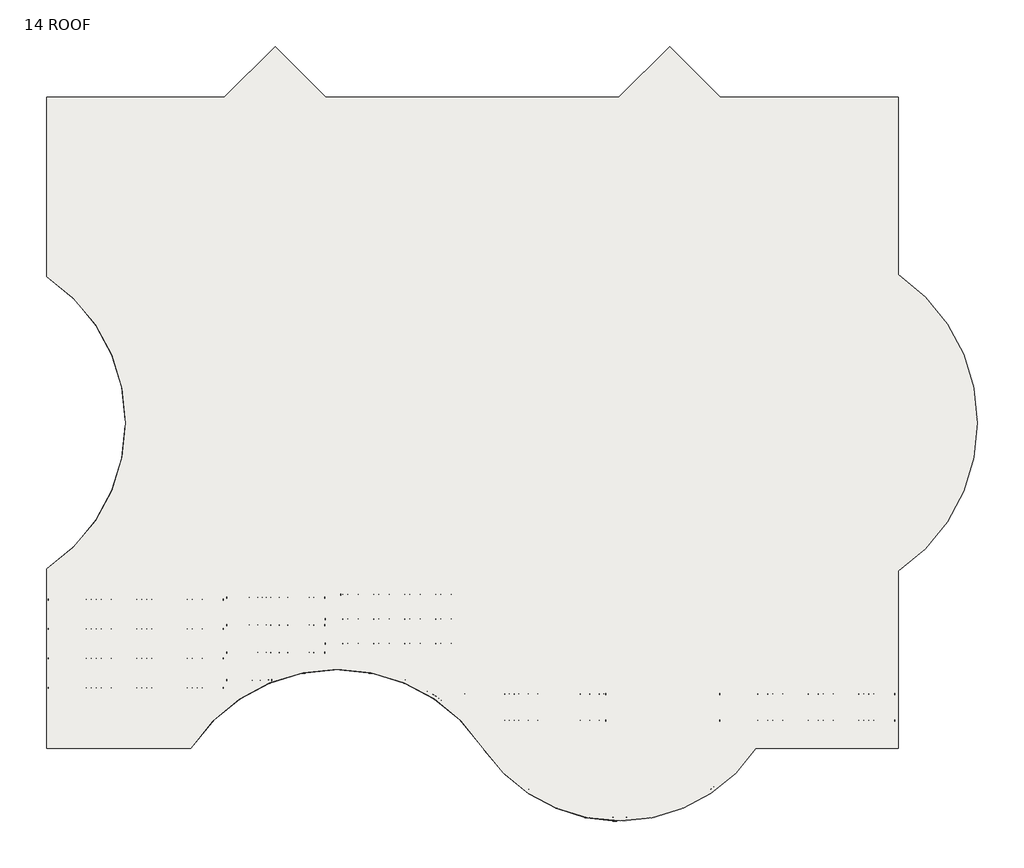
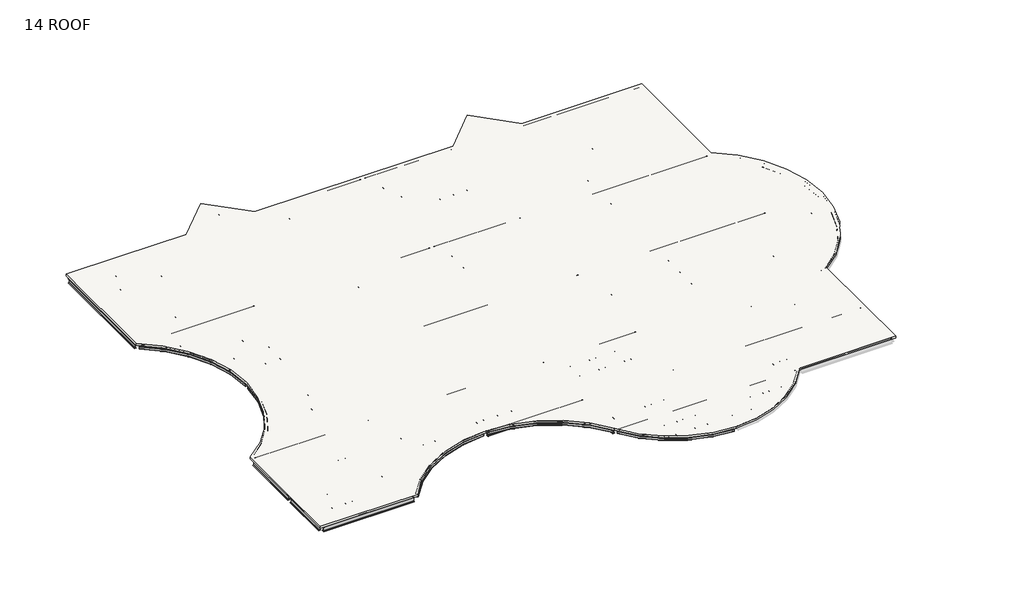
# One storey, part 1 of 2: 84 beams, 1 slab.
"""IFC4 building model written with IfcOpenShell, lengths in millimetres."""

from ifc_helpers import new_model, si_unit, frame, origin, place, context, project, spatial, polyline, circle_curve, transform, mapped, element, save
from ifc_brep_helpers import plane_surface, cylinder_surface, revolved_surface, advanced_brep
from components import k_series_bar_joist_angle_web_16k6_b8d877ef, k_series_bar_joist_angle_web_16k6_513a071d, k_series_bar_joist_angle_web_16k6_8cc64599, k_series_bar_joist_angle_web_16k6_8427851a, k_series_bar_joist_angle_web_16k6_15da1dfb, k_series_bar_joist_angle_web_16k6_93f726df, k_series_bar_joist_angle_web_16k6_7f331a79, k_series_bar_joist_angle_web_16k6_7619eb6f, k_series_bar_joist_angle_web_18k10_8fa36c72, k_series_bar_joist_angle_web_18k10_630fe876, k_series_bar_joist_angle_web_18k10_34fe76ac, k_series_bar_joist_angle_web_18k10_b23384f1, k_series_bar_joist_angle_web_18k10_bfc22dfb, k_series_bar_joist_angle_web_18k10_9bc89c3d, k_series_bar_joist_angle_web_18k10_634fa7f5, k_series_bar_joist_angle_web_18k10_34ad709c, m_hss_square_hss203_2x203_2x9_5_914ff4eb, m_hss_square_hss203_2x203_2x9_5_0e3d8e6e, m_hss_square_hss203_2x203_2x9_5_16dc1c03, m_hss_square_hss203_2x203_2x9_5_18346204, m_hss_square_hss203_2x203_2x9_5_d5f1e8c4, ub_universal_beams_ub254x102x28_1378b5d7, ub_universal_beams_ub356x171x51_ef72dcdd, ub_universal_beams_ub356x171x51_7f80702c, ub_universal_beams_ub356x171x51_dfc36663, ub_universal_beams_ub356x171x51_405a853e, ub_universal_beams_ub356x171x51_e47b7055, ub_universal_beams_ub356x171x51_e97f8d2e, ub_universal_beams_ub356x171x51_11d6b780, ub_universal_beams_ub356x171x51_76b2d20b, ub_universal_beams_ub356x171x51_145ecd4b, ub_universal_beams_ub356x171x51_c7dff8d2, ub_universal_beams_ub356x171x51_a38b99de, ub_universal_beams_ub356x171x51_d8f4cdde, ub_universal_beams_ub356x171x51_8094f821, ub_universal_beams_ub356x171x51_e661f2e4, ub_universal_beams_ub356x171x51_3ee91673, ub_universal_beams_ub356x171x51_a871b283, ub_universal_beams_ub356x171x51_6f605231, ub_universal_beams_ub356x171x51_0fe81250

model = new_model("IFC4")

# Units and contexts
model_context = context("Model", 3, world=origin())
ifc_project = project(units=[si_unit("LENGTHUNIT", "METRE", prefix="MILLI")], contexts=[model_context])

# Site, building, storey
site = spatial("IfcSite", under=ifc_project)
building = spatial("IfcBuilding", under=site)
storey = spatial("IfcBuildingStorey", under=building, Name="14 ROOF", Elevation=64922.6)

# Beams
placement = place(None, origin())
k_series_bar_joist_angle_web_16k6_shape = k_series_bar_joist_angle_web_16k6_b8d877ef(model_context)
element("IfcBeam", 1, ObjectType="K-Series Bar Joist-Angle Web : 16K6", at=placement, inside=storey, context=model_context, shape_type="MappedRepresentation", body=[
    mapped(k_series_bar_joist_angle_web_16k6_shape, transform((11885.575, 27472.075, 64719.6), x_axis=(1.0, 0.0, 0.0), y_axis=(0.0, 1.0, 0.0), z_axis=(0.0, 0.0, 1.0))),
])
element("IfcBeam", 2, ObjectType="K-Series Bar Joist-Angle Web : 16K6", at=placement, inside=storey, context=model_context, shape_type="MappedRepresentation", body=[
    mapped(k_series_bar_joist_angle_web_16k6_shape, transform((11885.575, 26005.825, 64719.6), x_axis=(1.0, 0.0, 0.0), y_axis=(0.0, 1.0, 0.0), z_axis=(0.0, 0.0, 1.0))),
])
element("IfcBeam", 3, ObjectType="K-Series Bar Joist-Angle Web : 16K6", at=placement, inside=storey, context=model_context, shape_type="MappedRepresentation", body=[
    mapped(k_series_bar_joist_angle_web_16k6_shape, transform((11885.575, 23015.575, 64719.6), x_axis=(1.0, 0.0, 0.0), y_axis=(0.0, 1.0, 0.0), z_axis=(0.0, 0.0, 1.0))),
])
element("IfcBeam", 4, ObjectType="K-Series Bar Joist-Angle Web : 16K6", at=placement, inside=storey, context=model_context, shape_type="MappedRepresentation", body=[
    mapped(k_series_bar_joist_angle_web_16k6_shape, transform((11885.575, 21491.575, 64719.6), x_axis=(1.0, 0.0, 0.0), y_axis=(0.0, 1.0, 0.0), z_axis=(0.0, 0.0, 1.0))),
])
element("IfcBeam", 5, ObjectType="K-Series Bar Joist-Angle Web : 16K6", at=placement, inside=storey, context=model_context, shape_type="MappedRepresentation", body=[
    mapped(k_series_bar_joist_angle_web_16k6_shape, transform((11885.575, 19967.575, 64719.6), x_axis=(1.0, 0.0, 0.0), y_axis=(0.0, 1.0, 0.0), z_axis=(0.0, 0.0, 1.0))),
])
element("IfcBeam", 6, ObjectType="K-Series Bar Joist-Angle Web : 16K6", at=placement, inside=storey, context=model_context, shape_type="MappedRepresentation", body=[
    mapped(k_series_bar_joist_angle_web_16k6_shape, transform((11885.575, 18443.575, 64719.6), x_axis=(1.0, 0.0, 0.0), y_axis=(0.0, 1.0, 0.0), z_axis=(0.0, 0.0, 1.0))),
])
element("IfcBeam", 7, ObjectType="K-Series Bar Joist-Angle Web : 16K6", at=placement, inside=storey, context=model_context, shape_type="MappedRepresentation", body=[
    mapped(k_series_bar_joist_angle_web_16k6_shape, transform((11885.575, 15395.575, 64719.6), x_axis=(1.0, 0.0, 0.0), y_axis=(0.0, 1.0, 0.0), z_axis=(0.0, 0.0, 1.0))),
])
element("IfcBeam", 8, ObjectType="K-Series Bar Joist-Angle Web : 16K6", at=placement, inside=storey, context=model_context, shape_type="MappedRepresentation", body=[
    mapped(k_series_bar_joist_angle_web_16k6_shape, transform((11885.575, 13871.575, 64719.6), x_axis=(1.0, 0.0, 0.0), y_axis=(0.0, 1.0, 0.0), z_axis=(0.0, 0.0, 1.0))),
])
element("IfcBeam", 9, ObjectType="K-Series Bar Joist-Angle Web : 16K6", at=placement, inside=storey, context=model_context, shape_type="MappedRepresentation", body=[
    mapped(k_series_bar_joist_angle_web_16k6_shape, transform((11885.575, 12347.575, 64719.6), x_axis=(1.0, 0.0, 0.0), y_axis=(0.0, 1.0, 0.0), z_axis=(0.0, 0.0, 1.0))),
])
element("IfcBeam", 10, ObjectType="K-Series Bar Joist-Angle Web : 16K6", at=placement, inside=storey, context=model_context, shape_type="MappedRepresentation", body=[
    mapped(k_series_bar_joist_angle_web_16k6_shape, transform((11885.575, 10823.575, 64719.6), x_axis=(1.0, 0.0, 0.0), y_axis=(0.0, 1.0, 0.0), z_axis=(0.0, 0.0, 1.0))),
])
k_series_bar_joist_angle_web_16k6_2_shape = k_series_bar_joist_angle_web_16k6_513a071d(model_context)
element("IfcBeam", 11, ObjectType="K-Series Bar Joist-Angle Web : 16K6", at=placement, inside=storey, context=model_context, shape_type="MappedRepresentation", body=[
    mapped(k_series_bar_joist_angle_web_16k6_2_shape, transform((29713.575, -2349.0918253, 64783.6), x_axis=(-1.0, 0.0, 0.0), y_axis=(0.0, -1.0, 0.0), z_axis=(0.0, 0.0, 1.0))),
])
k_series_bar_joist_angle_web_16k6_3_shape = k_series_bar_joist_angle_web_16k6_8cc64599(model_context)
element("IfcBeam", 12, ObjectType="K-Series Bar Joist-Angle Web : 16K6", at=placement, inside=storey, context=model_context, shape_type="MappedRepresentation", body=[
    mapped(k_series_bar_joist_angle_web_16k6_3_shape, transform((29713.575, -1096.7584126, 64783.6), x_axis=(-1.0, 0.0, 0.0), y_axis=(0.0, -1.0, 0.0), z_axis=(0.0, 0.0, 1.0))),
])
k_series_bar_joist_angle_web_16k6_4_shape = k_series_bar_joist_angle_web_16k6_8427851a(model_context)
element("IfcBeam", 13, ObjectType="K-Series Bar Joist-Angle Web : 16K6", at=placement, inside=storey, context=model_context, shape_type="MappedRepresentation", body=[
    mapped(k_series_bar_joist_angle_web_16k6_4_shape, transform((26211.9221013, 1518.575, 64740.9359146), x_axis=(-0.9999814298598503, 0.0, -0.006094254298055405), y_axis=(0.0, -1.0, 0.0), z_axis=(-0.006094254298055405, 0.0, 0.9999814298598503))),
])
element("IfcBeam", 14, ObjectType="K-Series Bar Joist-Angle Web : 16K6", at=placement, inside=storey, context=model_context, shape_type="MappedRepresentation", body=[
    mapped(k_series_bar_joist_angle_web_16k6_4_shape, transform((26211.4985566, 2881.575, 64730.267312), x_axis=(-0.9999953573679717, 0.0, -0.0030471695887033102), y_axis=(0.0, -0.9999999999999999, 0.0), z_axis=(-0.0030471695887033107, 0.0, 0.9999953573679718))),
])
k_series_bar_joist_angle_web_16k6_5_shape = k_series_bar_joist_angle_web_16k6_15da1dfb(model_context)
element("IfcBeam", 15, ObjectType="K-Series Bar Joist-Angle Web : 16K6", at=placement, inside=storey, context=model_context, shape_type="MappedRepresentation", body=[
    mapped(k_series_bar_joist_angle_web_16k6_5_shape, transform((21298.9972513, 2881.575, 64751.6358634), x_axis=(-0.9997419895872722, 0.0, 0.022714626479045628), y_axis=(0.0, -1.0000000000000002, 0.0), z_axis=(0.022714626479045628, 0.0, 0.9997419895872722))),
])
k_series_bar_joist_angle_web_16k6_6_shape = k_series_bar_joist_angle_web_16k6_93f726df(model_context)
element("IfcBeam", 16, ObjectType="K-Series Bar Joist-Angle Web : 16K6", at=placement, inside=storey, context=model_context, shape_type="MappedRepresentation", body=[
    mapped(k_series_bar_joist_angle_web_16k6_6_shape, transform((26211.075, 5508.325, 64719.6), x_axis=(-1.0, 0.0, 0.0), y_axis=(0.0, -1.0, 0.0), z_axis=(0.0, 0.0, 1.0))),
])
element("IfcBeam", 17, ObjectType="K-Series Bar Joist-Angle Web : 16K6", at=placement, inside=storey, context=model_context, shape_type="MappedRepresentation", body=[
    mapped(k_series_bar_joist_angle_web_16k6_6_shape, transform((26211.075, 6772.075, 64719.6), x_axis=(-1.0, 0.0, 0.0), y_axis=(0.0, -1.0, 0.0), z_axis=(0.0, 0.0, 1.0))),
])
element("IfcBeam", 18, ObjectType="K-Series Bar Joist-Angle Web : 16K6", at=placement, inside=storey, context=model_context, shape_type="MappedRepresentation", body=[
    mapped(k_series_bar_joist_angle_web_16k6_6_shape, transform((26211.075, 8035.825, 64719.6), x_axis=(-1.0, 0.0, 0.0), y_axis=(0.0, -1.0, 0.0), z_axis=(0.0, 0.0, 1.0))),
])
element("IfcBeam", 19, ObjectType="K-Series Bar Joist-Angle Web : 16K6", at=placement, inside=storey, context=model_context, shape_type="MappedRepresentation", body=[
    mapped(k_series_bar_joist_angle_web_16k6_6_shape, transform((26211.075, 15395.575, 64719.6), x_axis=(1.0, 0.0, 0.0), y_axis=(0.0, 1.0, 0.0), z_axis=(0.0, 0.0, 1.0))),
])
element("IfcBeam", 20, ObjectType="K-Series Bar Joist-Angle Web : 16K6", at=placement, inside=storey, context=model_context, shape_type="MappedRepresentation", body=[
    mapped(k_series_bar_joist_angle_web_16k6_6_shape, transform((26211.075, 13871.575, 64719.6), x_axis=(1.0, 0.0, 0.0), y_axis=(0.0, 1.0, 0.0), z_axis=(0.0, 0.0, 1.0))),
])
element("IfcBeam", 21, ObjectType="K-Series Bar Joist-Angle Web : 16K6", at=placement, inside=storey, context=model_context, shape_type="MappedRepresentation", body=[
    mapped(k_series_bar_joist_angle_web_16k6_6_shape, transform((26211.075, 12347.575, 64719.6), x_axis=(1.0, 0.0, 0.0), y_axis=(0.0, 1.0, 0.0), z_axis=(0.0, 0.0, 1.0))),
])
element("IfcBeam", 22, ObjectType="K-Series Bar Joist-Angle Web : 16K6", at=placement, inside=storey, context=model_context, shape_type="MappedRepresentation", body=[
    mapped(k_series_bar_joist_angle_web_16k6_6_shape, transform((26211.075, 10823.575, 64719.6), x_axis=(1.0, 0.0, 0.0), y_axis=(0.0, 1.0, 0.0), z_axis=(0.0, 0.0, 1.0))),
])
k_series_bar_joist_angle_web_16k6_7_shape = k_series_bar_joist_angle_web_16k6_7f331a79(model_context)
element("IfcBeam", 23, ObjectType="K-Series Bar Joist-Angle Web : 16K6", at=placement, inside=storey, context=model_context, shape_type="MappedRepresentation", body=[
    mapped(k_series_bar_joist_angle_web_16k6_7_shape, transform((10513.5617822, 3601.7204608, 64761.5737568), x_axis=(-0.9998344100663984, 0.0, -0.018197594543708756), y_axis=(0.0, -1.0000000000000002, 0.0), z_axis=(-0.018197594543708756, 0.0, 0.9998344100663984))),
])
k_series_bar_joist_angle_web_16k6_8_shape = k_series_bar_joist_angle_web_16k6_7619eb6f(model_context)
element("IfcBeam", 24, ObjectType="K-Series Bar Joist-Angle Web : 16K6", at=placement, inside=storey, context=model_context, shape_type="MappedRepresentation", body=[
    mapped(k_series_bar_joist_angle_web_16k6_8_shape, transform((11887.0229911, 5026.1840956, 64746.5478895), x_axis=(-0.9999457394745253, 0.0, -0.010417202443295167), y_axis=(0.0, -0.9999999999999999, 0.0), z_axis=(-0.010417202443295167, 0.0, 0.9999457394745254))),
])
element("IfcBeam", 25, ObjectType="K-Series Bar Joist-Angle Web : 16K6", at=placement, inside=storey, context=model_context, shape_type="MappedRepresentation", body=[
    mapped(k_series_bar_joist_angle_web_16k6_shape, transform((11886.5403565, 6450.6477304, 64737.5635838), x_axis=(-0.999975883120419, 0.0, -0.006945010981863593), y_axis=(0.0, -1.0, 0.0), z_axis=(-0.006945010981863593, 0.0, 0.999975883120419))),
])
element("IfcBeam", 26, ObjectType="K-Series Bar Joist-Angle Web : 16K6", at=placement, inside=storey, context=model_context, shape_type="MappedRepresentation", body=[
    mapped(k_series_bar_joist_angle_web_16k6_shape, transform((11886.057687, 7875.1113652, 64728.5809539), x_axis=(-0.9999939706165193, 0.0, -0.0034725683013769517), y_axis=(0.0, -0.9999999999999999, 0.0), z_axis=(-0.003472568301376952, 0.0, 0.9999939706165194))),
])
k_series_bar_joist_angle_web_18k10_shape = k_series_bar_joist_angle_web_18k10_8fa36c72(model_context)
element("IfcBeam", 27, ObjectType="K-Series Bar Joist-Angle Web : 18K10", at=placement, inside=storey, context=model_context, shape_type="MappedRepresentation", body=[
    mapped(k_series_bar_joist_angle_web_18k10_shape, transform((4727.575, 30635.575, 64694.1), x_axis=(1.0, 0.0, 0.0), y_axis=(0.0, 1.0, 0.0), z_axis=(0.0, 0.0, 1.0))),
])
element("IfcBeam", 28, ObjectType="K-Series Bar Joist-Angle Web : 18K10", at=placement, inside=storey, context=model_context, shape_type="MappedRepresentation", body=[
    mapped(k_series_bar_joist_angle_web_18k10_shape, transform((4727.575, 29111.575, 64694.1), x_axis=(1.0, 0.0, 0.0), y_axis=(0.0, 1.0, 0.0), z_axis=(0.0, 0.0, 1.0))),
])
element("IfcBeam", 29, ObjectType="K-Series Bar Joist-Angle Web : 18K10", at=placement, inside=storey, context=model_context, shape_type="MappedRepresentation", body=[
    mapped(k_series_bar_joist_angle_web_18k10_shape, transform((4727.575, 27587.575, 64694.1), x_axis=(1.0, 0.0, 0.0), y_axis=(0.0, 1.0, 0.0), z_axis=(0.0, 0.0, 1.0))),
])
element("IfcBeam", 30, ObjectType="K-Series Bar Joist-Angle Web : 18K10", at=placement, inside=storey, context=model_context, shape_type="MappedRepresentation", body=[
    mapped(k_series_bar_joist_angle_web_18k10_shape, transform((4727.575, 26063.575, 64694.1), x_axis=(1.0, 0.0, 0.0), y_axis=(0.0, 1.0, 0.0), z_axis=(0.0, 0.0, 1.0))),
])
k_series_bar_joist_angle_web_18k10_2_shape = k_series_bar_joist_angle_web_18k10_630fe876(model_context)
element("IfcBeam", 31, ObjectType="K-Series Bar Joist-Angle Web : 18K10", at=placement, inside=storey, context=model_context, shape_type="MappedRepresentation", body=[
    mapped(k_series_bar_joist_angle_web_18k10_2_shape, transform((18591.075, 15395.575, 64694.1), x_axis=(1.0, 0.0, 0.0), y_axis=(0.0, 1.0, 0.0), z_axis=(0.0, 0.0, 1.0))),
])
element("IfcBeam", 32, ObjectType="K-Series Bar Joist-Angle Web : 18K10", at=placement, inside=storey, context=model_context, shape_type="MappedRepresentation", body=[
    mapped(k_series_bar_joist_angle_web_18k10_2_shape, transform((18591.075, 13871.575, 64694.1), x_axis=(1.0, 0.0, 0.0), y_axis=(0.0, 1.0, 0.0), z_axis=(0.0, 0.0, 1.0))),
])
element("IfcBeam", 33, ObjectType="K-Series Bar Joist-Angle Web : 18K10", at=placement, inside=storey, context=model_context, shape_type="MappedRepresentation", body=[
    mapped(k_series_bar_joist_angle_web_18k10_2_shape, transform((18591.075, 12347.575, 64694.1), x_axis=(1.0, 0.0, 0.0), y_axis=(0.0, 1.0, 0.0), z_axis=(0.0, 0.0, 1.0))),
])
element("IfcBeam", 34, ObjectType="K-Series Bar Joist-Angle Web : 18K10", at=placement, inside=storey, context=model_context, shape_type="MappedRepresentation", body=[
    mapped(k_series_bar_joist_angle_web_18k10_2_shape, transform((18591.075, 10823.575, 64694.1), x_axis=(1.0, 0.0, 0.0), y_axis=(0.0, 1.0, 0.0), z_axis=(0.0, 0.0, 1.0))),
])
k_series_bar_joist_angle_web_18k10_3_shape = k_series_bar_joist_angle_web_18k10_34fe76ac(model_context)
element("IfcBeam", 35, ObjectType="K-Series Bar Joist-Angle Web : 18K10", at=placement, inside=storey, context=model_context, shape_type="MappedRepresentation", body=[
    mapped(k_series_bar_joist_angle_web_18k10_3_shape, transform((18590.1166475, 5492.5943214, 64718.1027916), x_axis=(-0.9999830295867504, 0.0, 0.005825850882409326), y_axis=(0.0, -1.0, 0.0), z_axis=(0.005825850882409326, 0.0, 0.9999830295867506))),
])
element("IfcBeam", 36, ObjectType="K-Series Bar Joist-Angle Web : 18K10", at=placement, inside=storey, context=model_context, shape_type="MappedRepresentation", body=[
    mapped(k_series_bar_joist_angle_web_18k10_2_shape, transform((18590.4360923, 6761.5878809, 64710.1012407), x_axis=(-0.9999924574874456, 0.0, 0.003883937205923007), y_axis=(0.0, -1.0000000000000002, 0.0), z_axis=(0.003883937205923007, 0.0, 0.9999924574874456))),
])
element("IfcBeam", 37, ObjectType="K-Series Bar Joist-Angle Web : 18K10", at=placement, inside=storey, context=model_context, shape_type="MappedRepresentation", body=[
    mapped(k_series_bar_joist_angle_web_18k10_3_shape, transform((18590.7555444, 8030.5814405, 64702.1003102), x_axis=(-0.9999981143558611, 0.0, 0.0019419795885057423), y_axis=(0.0, -1.0, 0.0), z_axis=(0.0019419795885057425, 0.0, 0.9999981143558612))),
])
k_series_bar_joist_angle_web_18k10_4_shape = k_series_bar_joist_angle_web_18k10_b23384f1(model_context)
element("IfcBeam", 38, ObjectType="K-Series Bar Joist-Angle Web : 18K10", at=placement, inside=storey, context=model_context, shape_type="MappedRepresentation", body=[
    mapped(k_series_bar_joist_angle_web_18k10_4_shape, transform((6708.1318611, 15395.575, 64694.1), x_axis=(1.0, 0.0, 0.0), y_axis=(0.0, 1.0, 0.0), z_axis=(0.0, 0.0, 1.0))),
])
element("IfcBeam", 39, ObjectType="K-Series Bar Joist-Angle Web : 18K10", at=placement, inside=storey, context=model_context, shape_type="MappedRepresentation", body=[
    mapped(k_series_bar_joist_angle_web_18k10_4_shape, transform((6708.1318611, 18443.575, 64694.1), x_axis=(1.0, 0.0, 0.0), y_axis=(0.0, 1.0, 0.0), z_axis=(0.0, 0.0, 1.0))),
])
k_series_bar_joist_angle_web_18k10_5_shape = k_series_bar_joist_angle_web_18k10_bfc22dfb(model_context)
element("IfcBeam", 40, ObjectType="K-Series Bar Joist-Angle Web : 18K10", at=placement, inside=storey, context=model_context, shape_type="MappedRepresentation", body=[
    mapped(k_series_bar_joist_angle_web_18k10_5_shape, transform((6510.6153272, 13871.575, 64694.1), x_axis=(1.0, 0.0, 0.0), y_axis=(0.0, 1.0, 0.0), z_axis=(0.0, 0.0, 1.0))),
])
element("IfcBeam", 41, ObjectType="K-Series Bar Joist-Angle Web : 18K10", at=placement, inside=storey, context=model_context, shape_type="MappedRepresentation", body=[
    mapped(k_series_bar_joist_angle_web_18k10_5_shape, transform((6510.6153272, 19967.575, 64694.1), x_axis=(1.0, 0.0, 0.0), y_axis=(0.0, 1.0, 0.0), z_axis=(0.0, 0.0, 1.0))),
])
k_series_bar_joist_angle_web_18k10_6_shape = k_series_bar_joist_angle_web_18k10_9bc89c3d(model_context)
element("IfcBeam", 42, ObjectType="K-Series Bar Joist-Angle Web : 18K10", at=placement, inside=storey, context=model_context, shape_type="MappedRepresentation", body=[
    mapped(k_series_bar_joist_angle_web_18k10_6_shape, transform((6159.5874928, 12347.575, 64694.1), x_axis=(1.0, 0.0, 0.0), y_axis=(0.0, 1.0, 0.0), z_axis=(0.0, 0.0, 1.0))),
])
element("IfcBeam", 43, ObjectType="K-Series Bar Joist-Angle Web : 18K10", at=placement, inside=storey, context=model_context, shape_type="MappedRepresentation", body=[
    mapped(k_series_bar_joist_angle_web_18k10_6_shape, transform((6159.5874928, 21491.575, 64694.1), x_axis=(1.0, 0.0, 0.0), y_axis=(0.0, 1.0, 0.0), z_axis=(0.0, 0.0, 1.0))),
])
k_series_bar_joist_angle_web_18k10_7_shape = k_series_bar_joist_angle_web_18k10_634fa7f5(model_context)
element("IfcBeam", 44, ObjectType="K-Series Bar Joist-Angle Web : 18K10", at=placement, inside=storey, context=model_context, shape_type="MappedRepresentation", body=[
    mapped(k_series_bar_joist_angle_web_18k10_7_shape, transform((5607.9405309, 10823.575, 64694.1), x_axis=(1.0, 0.0, 0.0), y_axis=(0.0, 1.0, 0.0), z_axis=(0.0, 0.0, 1.0))),
])
element("IfcBeam", 45, ObjectType="K-Series Bar Joist-Angle Web : 18K10", at=placement, inside=storey, context=model_context, shape_type="MappedRepresentation", body=[
    mapped(k_series_bar_joist_angle_web_18k10_7_shape, transform((5607.9405309, 23015.575, 64694.1), x_axis=(1.0, 0.0, 0.0), y_axis=(0.0, 1.0, 0.0), z_axis=(0.0, 0.0, 1.0))),
])
k_series_bar_joist_angle_web_18k10_8_shape = k_series_bar_joist_angle_web_18k10_34ad709c(model_context)
element("IfcBeam", 46, ObjectType="K-Series Bar Joist-Angle Web : 18K10", at=placement, inside=storey, context=model_context, shape_type="MappedRepresentation", body=[
    mapped(k_series_bar_joist_angle_web_18k10_8_shape, transform((4447.6838282, 1679.575, 64758.1), x_axis=(-1.0, 0.0, 0.0), y_axis=(0.0, -1.0, 0.0), z_axis=(0.0, 0.0, 1.0))),
])
element("IfcBeam", 47, ObjectType="K-Series Bar Joist-Angle Web : 18K10", at=placement, inside=storey, context=model_context, shape_type="MappedRepresentation", body=[
    mapped(k_series_bar_joist_angle_web_18k10_shape, transform((4727.0034138, 3203.575, 64742.214623), x_axis=(-0.9999939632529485, 0.0, 0.003474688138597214), y_axis=(0.0, -1.0, 0.0), z_axis=(0.0034746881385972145, 0.0, 0.9999939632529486))),
])
element("IfcBeam", 48, ObjectType="K-Series Bar Joist-Angle Web : 18K10", at=placement, inside=storey, context=model_context, shape_type="MappedRepresentation", body=[
    mapped(k_series_bar_joist_angle_web_18k10_shape, transform((4726.4236721, 4727.575, 64726.1040291), x_axis=(-0.9999755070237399, 0.0, 0.006998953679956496), y_axis=(0.0, -1.0, 0.0), z_axis=(0.006998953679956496, 0.0, 0.9999755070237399))),
])
element("IfcBeam", 49, ObjectType="K-Series Bar Joist-Angle Web : 18K10", at=placement, inside=storey, context=model_context, shape_type="MappedRepresentation", body=[
    mapped(k_series_bar_joist_angle_web_18k10_shape, transform((4726.4236721, 6251.575, 64726.1040291), x_axis=(-0.9999755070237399, 0.0, 0.006998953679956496), y_axis=(0.0, -1.0, 0.0), z_axis=(0.006998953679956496, 0.0, 0.9999755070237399))),
])
element("IfcBeam", 50, ObjectType="K-Series Bar Joist-Angle Web : 18K10", at=placement, inside=storey, context=model_context, shape_type="MappedRepresentation", body=[
    mapped(k_series_bar_joist_angle_web_18k10_shape, transform((4726.4236721, 7775.575, 64726.1040291), x_axis=(-0.9999755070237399, 0.0, 0.006998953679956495), y_axis=(0.0, -1.0, 0.0), z_axis=(0.006998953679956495, 0.0, 0.9999755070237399))),
])
m_hss_square_hss203_2x203_2x9_5_shape = m_hss_square_hss203_2x203_2x9_5_914ff4eb(model_context)
element("IfcBeam", 51, ObjectType="M_HSS Square : HSS203.2X203.2X9.5", at=placement, inside=storey, context=model_context, shape_type="MappedRepresentation", body=[
    mapped(m_hss_square_hss203_2x203_2x9_5_shape, transform((22710.575, 155.575, 64821.1), x_axis=(-0.552849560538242, 0.8332810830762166, 0.0), y_axis=(-0.8332810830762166, -0.552849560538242, 0.0), z_axis=(0.0, 0.0, 1.0))),
])
m_hss_square_hss203_2x203_2x9_5_2_shape = m_hss_square_hss203_2x203_2x9_5_0e3d8e6e(model_context)
element("IfcBeam", 52, ObjectType="M_HSS Square : HSS203.2X203.2X9.5", at=placement, inside=storey, context=model_context, shape_type="MappedRepresentation", body=[
    mapped(m_hss_square_hss203_2x203_2x9_5_2_shape, transform((155.575, 9299.575, 64757.1), x_axis=(0.8332810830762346, 0.5528495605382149, 0.0), y_axis=(-0.5528495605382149, 0.8332810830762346, 0.0), z_axis=(0.0, 0.0, 1.0))),
])
m_hss_square_hss203_2x203_2x9_5_3_shape = m_hss_square_hss203_2x203_2x9_5_16dc1c03(model_context)
element("IfcBeam", 53, ObjectType="M_HSS Square : HSS203.2X203.2X9.5", at=placement, inside=storey, context=model_context, shape_type="MappedRepresentation", body=[
    mapped(m_hss_square_hss203_2x203_2x9_5_3_shape, transform((155.575, 24539.575, 64757.1), x_axis=(0.8332810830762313, -0.5528495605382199, 0.0), y_axis=(0.5528495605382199, 0.8332810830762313, 0.0), z_axis=(0.0, 0.0, 1.0))),
])
m_hss_square_hss203_2x203_2x9_5_4_shape = m_hss_square_hss203_2x203_2x9_5_18346204(model_context)
element("IfcBeam", 54, ObjectType="M_HSS Square : HSS203.2X203.2X9.5", at=placement, inside=storey, context=model_context, shape_type="MappedRepresentation", body=[
    mapped(m_hss_square_hss203_2x203_2x9_5_4_shape, transform((29734.7266693, -3601.398624, 64821.1), x_axis=(-0.9999968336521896, -0.0025164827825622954, 0.0), y_axis=(0.0025164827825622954, -0.9999968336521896, 0.0), z_axis=(0.0, 0.0, 1.0))),
])
m_hss_square_hss203_2x203_2x9_5_5_shape = m_hss_square_hss203_2x203_2x9_5_d5f1e8c4(model_context)
element("IfcBeam", 55, ObjectType="M_HSS Square : HSS203.2X203.2X9.5", at=placement, inside=storey, context=model_context, shape_type="MappedRepresentation", body=[
    mapped(m_hss_square_hss203_2x203_2x9_5_5_shape, transform((15096.4572854, 4244.5731081, 64821.1), x_axis=(-0.9999997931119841, 0.0006432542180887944, 0.0), y_axis=(-0.0006432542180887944, -0.9999997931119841, 0.0), z_axis=(0.0, 0.0, 1.0))),
])
ub_universal_beams_ub254x102x28_shape = ub_universal_beams_ub254x102x28_1378b5d7(model_context)
element("IfcBeam", 56, ObjectType="UB-Universal Beams : UB254x102x28", at=placement, inside=storey, context=model_context, shape_type="MappedRepresentation", body=[
    mapped(ub_universal_beams_ub254x102x28_shape, transform((9299.575, 3206.8871138, 64760.4623468), x_axis=(0.0, -0.9995211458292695, 0.030943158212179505), y_axis=(1.0, 0.0, 0.0), z_axis=(0.0, 0.030943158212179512, 0.9995211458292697))),
])
ub_universal_beams_ub356x171x51_shape = ub_universal_beams_ub356x171x51_ef72dcdd(model_context)
element("IfcBeam", 57, ObjectType="UB-Universal Beams : UB356x171x51", at=placement, inside=storey, context=model_context, shape_type="MappedRepresentation", body=[
    mapped(ub_universal_beams_ub356x171x51_shape, transform((9299.575, 6772.075, 64681.1), x_axis=(0.0, -1.0, 0.0), y_axis=(1.0, 0.0, 0.0), z_axis=(0.0, 0.0, 1.0))),
])
element("IfcBeam", 58, ObjectType="UB-Universal Beams : UB356x171x51", at=placement, inside=storey, context=model_context, shape_type="MappedRepresentation", body=[
    mapped(ub_universal_beams_ub356x171x51_shape, transform((29711.575, 6772.075, 64681.1), x_axis=(0.0, 1.0, 0.0), y_axis=(-1.0, 0.0, 0.0), z_axis=(0.0, 0.0, 1.0))),
])
element("IfcBeam", 59, ObjectType="UB-Universal Beams : UB356x171x51", at=placement, inside=storey, context=model_context, shape_type="MappedRepresentation", body=[
    mapped(ub_universal_beams_ub356x171x51_shape, transform((22710.575, 6772.075, 64681.1), x_axis=(0.0, -1.0, 0.0), y_axis=(1.0, 0.0, 0.0), z_axis=(0.0, 0.0, 1.0))),
])
ub_universal_beams_ub356x171x51_2_shape = ub_universal_beams_ub356x171x51_7f80702c(model_context)
element("IfcBeam", 60, ObjectType="UB-Universal Beams : UB356x171x51", at=placement, inside=storey, context=model_context, shape_type="MappedRepresentation", body=[
    mapped(ub_universal_beams_ub356x171x51_2_shape, transform((3813.075, 155.575, 64745.1), x_axis=(-1.0, 0.0, 0.0), y_axis=(0.0, -1.0, 0.0), z_axis=(0.0, 0.0, 1.0))),
])
ub_universal_beams_ub356x171x51_3_shape = ub_universal_beams_ub356x171x51_dfc36663(model_context)
element("IfcBeam", 61, ObjectType="UB-Universal Beams : UB356x171x51", at=placement, inside=storey, context=model_context, shape_type="MappedRepresentation", body=[
    mapped(ub_universal_beams_ub356x171x51_3_shape, transform((155.575, 2200.075, 64745.1), x_axis=(0.0, 1.0, 0.0), y_axis=(-1.0, 0.0, 0.0), z_axis=(0.0, 0.0, 1.0))),
])
ub_universal_beams_ub356x171x51_4_shape = ub_universal_beams_ub356x171x51_405a853e(model_context)
element("IfcBeam", 62, ObjectType="UB-Universal Beams : UB356x171x51", at=placement, inside=storey, context=model_context, shape_type="MappedRepresentation", body=[
    mapped(ub_universal_beams_ub356x171x51_4_shape, transform((155.575, 6772.075, 64745.1), x_axis=(0.0, 1.0, 0.0), y_axis=(-1.0, 0.0, 0.0), z_axis=(0.0, 0.0, 1.0))),
])
ub_universal_beams_ub356x171x51_5_shape = ub_universal_beams_ub356x171x51_e47b7055(model_context)
element("IfcBeam", 63, ObjectType="UB-Universal Beams : UB356x171x51", at=placement, inside=storey, context=model_context, shape_type="MappedRepresentation", body=[
    mapped(ub_universal_beams_ub356x171x51_5_shape, transform((155.575, 29111.575, 64681.1), x_axis=(0.0, 1.0, 0.0), y_axis=(-1.0, 0.0, 0.0), z_axis=(0.0, 0.0, 1.0))),
])
ub_universal_beams_ub356x171x51_6_shape = ub_universal_beams_ub356x171x51_e97f8d2e(model_context)
element("IfcBeam", 64, ObjectType="UB-Universal Beams : UB356x171x51", at=placement, inside=storey, context=model_context, shape_type="MappedRepresentation", body=[
    mapped(ub_universal_beams_ub356x171x51_6_shape, transform((4727.575, 24539.575, 64745.1), x_axis=(1.0, 0.0, 0.0), y_axis=(0.0, 1.0, 0.0), z_axis=(0.0, 0.0, 1.0))),
])
ub_universal_beams_ub356x171x51_7_shape = ub_universal_beams_ub356x171x51_11d6b780(model_context)
element("IfcBeam", 65, ObjectType="UB-Universal Beams : UB356x171x51", at=placement, inside=storey, context=model_context, shape_type="MappedRepresentation", body=[
    mapped(ub_universal_beams_ub356x171x51_7_shape, transform((11885.575, 24539.575, 64745.1), x_axis=(1.0, 0.0, 0.0), y_axis=(0.0, 1.0, 0.0), z_axis=(0.0, 0.0, 1.0))),
])
element("IfcBeam", 66, ObjectType="UB-Universal Beams : UB356x171x51", at=placement, inside=storey, context=model_context, shape_type="MappedRepresentation", body=[
    mapped(ub_universal_beams_ub356x171x51_7_shape, transform((11885.575, 9299.575, 64745.1), x_axis=(-1.0, 0.0, 0.0), y_axis=(0.0, -1.0, 0.0), z_axis=(0.0, 0.0, 1.0))),
])
element("IfcBeam", 67, ObjectType="UB-Universal Beams : UB356x171x51", at=placement, inside=storey, context=model_context, shape_type="MappedRepresentation", body=[
    mapped(ub_universal_beams_ub356x171x51_7_shape, transform((11885.575, 16919.575, 64745.1), x_axis=(1.0, 0.0, 0.0), y_axis=(0.0, 1.0, 0.0), z_axis=(0.0, 0.0, 1.0))),
])
ub_universal_beams_ub356x171x51_8_shape = ub_universal_beams_ub356x171x51_76b2d20b(model_context)
element("IfcBeam", 68, ObjectType="UB-Universal Beams : UB356x171x51", at=placement, inside=storey, context=model_context, shape_type="MappedRepresentation", body=[
    mapped(ub_universal_beams_ub356x171x51_8_shape, transform((18591.075, 9299.575, 64745.1), x_axis=(-1.0, 0.0, 0.0), y_axis=(0.0, -1.0, 0.0), z_axis=(0.0, 0.0, 1.0))),
])
ub_universal_beams_ub356x171x51_9_shape = ub_universal_beams_ub356x171x51_145ecd4b(model_context)
element("IfcBeam", 69, ObjectType="UB-Universal Beams : UB356x171x51", at=placement, inside=storey, context=model_context, shape_type="MappedRepresentation", body=[
    mapped(ub_universal_beams_ub356x171x51_9_shape, transform((26211.075, 9299.575, 64745.1), x_axis=(-1.0, 0.0, 0.0), y_axis=(0.0, -1.0, 0.0), z_axis=(0.0, 0.0, 1.0))),
])
element("IfcBeam", 70, ObjectType="UB-Universal Beams : UB356x171x51", at=placement, inside=storey, context=model_context, shape_type="MappedRepresentation", body=[
    mapped(ub_universal_beams_ub356x171x51_9_shape, transform((26211.075, 4244.575, 64745.1), x_axis=(-1.0, 0.0, 0.0), y_axis=(0.0, -1.0, 0.0), z_axis=(0.0, 0.0, 1.0))),
])
ub_universal_beams_ub356x171x51_10_shape = ub_universal_beams_ub356x171x51_c7dff8d2(model_context)
element("IfcBeam", 71, ObjectType="UB-Universal Beams : UB356x171x51", at=placement, inside=storey, context=model_context, shape_type="MappedRepresentation", body=[
    mapped(ub_universal_beams_ub356x171x51_10_shape, transform((4727.575, 9299.575, 64745.1), x_axis=(-1.0, 0.0, 0.0), y_axis=(0.0, -1.0, 0.0), z_axis=(0.0, 0.0, 1.0))),
])
ub_universal_beams_ub356x171x51_11_shape = ub_universal_beams_ub356x171x51_a38b99de(model_context)
element("IfcBeam", 72, ObjectType="UB-Universal Beams : UB356x171x51", at=placement, inside=storey, context=model_context, shape_type="MappedRepresentation", body=[
    mapped(ub_universal_beams_ub356x171x51_11_shape, transform((9299.575, 13109.575, 64681.1), x_axis=(0.0, 1.0, 0.0), y_axis=(-1.0, 0.0, 0.0), z_axis=(0.0, 0.0, 1.0))),
])
element("IfcBeam", 73, ObjectType="UB-Universal Beams : UB356x171x51", at=placement, inside=storey, context=model_context, shape_type="MappedRepresentation", body=[
    mapped(ub_universal_beams_ub356x171x51_11_shape, transform((9299.575, 20729.575, 64681.1), x_axis=(0.0, 1.0, 0.0), y_axis=(-1.0, 0.0, 0.0), z_axis=(0.0, 0.0, 1.0))),
])
element("IfcBeam", 74, ObjectType="UB-Universal Beams : UB356x171x51", at=placement, inside=storey, context=model_context, shape_type="MappedRepresentation", body=[
    mapped(ub_universal_beams_ub356x171x51_11_shape, transform((14471.575, 20729.575, 64681.1), x_axis=(0.0, -1.0, 0.0), y_axis=(1.0, 0.0, 0.0), z_axis=(0.0, 0.0, 1.0))),
])
element("IfcBeam", 75, ObjectType="UB-Universal Beams : UB356x171x51", at=placement, inside=storey, context=model_context, shape_type="MappedRepresentation", body=[
    mapped(ub_universal_beams_ub356x171x51_11_shape, transform((14471.575, 13109.575, 64681.1), x_axis=(0.0, -1.0, 0.0), y_axis=(1.0, 0.0, 0.0), z_axis=(0.0, 0.0, 1.0))),
])
element("IfcBeam", 76, ObjectType="UB-Universal Beams : UB356x171x51", at=placement, inside=storey, context=model_context, shape_type="MappedRepresentation", body=[
    mapped(ub_universal_beams_ub356x171x51_11_shape, transform((22710.575, 13109.575, 64681.1), x_axis=(0.0, -1.0, 0.0), y_axis=(1.0, 0.0, 0.0), z_axis=(0.0, 0.0, 1.0))),
])
element("IfcBeam", 77, ObjectType="UB-Universal Beams : UB356x171x51", at=placement, inside=storey, context=model_context, shape_type="MappedRepresentation", body=[
    mapped(ub_universal_beams_ub356x171x51_11_shape, transform((29711.575, 13109.575, 64681.1), x_axis=(0.0, 1.0, 0.0), y_axis=(-1.0, 0.0, 0.0), z_axis=(0.0, 0.0, 1.0))),
])
ub_universal_beams_ub356x171x51_12_shape = ub_universal_beams_ub356x171x51_d8f4cdde(model_context)
element("IfcBeam", 78, ObjectType="UB-Universal Beams : UB356x171x51", at=placement, inside=storey, context=model_context, shape_type="MappedRepresentation", body=[
    mapped(ub_universal_beams_ub356x171x51_12_shape, transform((9299.575, 29111.575, 64681.1), x_axis=(0.0, 1.0, 0.0), y_axis=(-1.0, 0.0, 0.0), z_axis=(0.0, 0.0, 1.0))),
])
ub_universal_beams_ub356x171x51_13_shape = ub_universal_beams_ub356x171x51_8094f821(model_context)
element("IfcBeam", 79, ObjectType="UB-Universal Beams : UB356x171x51", at=placement, inside=storey, context=model_context, shape_type="MappedRepresentation", body=[
    mapped(ub_universal_beams_ub356x171x51_13_shape, transform((6772.075, 16919.575, 64745.1), x_axis=(1.0, 0.0, 0.0), y_axis=(0.0, 1.0, 0.0), z_axis=(0.0, 0.0, 1.0))),
])
ub_universal_beams_ub356x171x51_14_shape = ub_universal_beams_ub356x171x51_e661f2e4(model_context)
element("IfcBeam", 80, ObjectType="UB-Universal Beams : UB356x171x51", at=placement, inside=storey, context=model_context, shape_type="MappedRepresentation", body=[
    mapped(ub_universal_beams_ub356x171x51_14_shape, transform((29713.575, 155.575, 64745.1), x_axis=(-1.0, 0.0, 0.0), y_axis=(0.0, -1.0, 0.0), z_axis=(0.0, 0.0, 1.0))),
])
ub_universal_beams_ub356x171x51_15_shape = ub_universal_beams_ub356x171x51_3ee91673(model_context)
element("IfcBeam", 81, ObjectType="UB-Universal Beams : UB356x171x51", at=placement, inside=storey, context=model_context, shape_type="MappedRepresentation", body=[
    mapped(ub_universal_beams_ub356x171x51_15_shape, transform((18900.575, 4244.575, 64745.1), x_axis=(-1.0, 0.0, 0.0), y_axis=(0.0, -1.0, 0.0), z_axis=(0.0, 0.0, 1.0))),
])
ub_universal_beams_ub356x171x51_16_shape = ub_universal_beams_ub356x171x51_a871b283(model_context)
element("IfcBeam", 82, ObjectType="UB-Universal Beams : UB356x171x51", at=placement, inside=storey, context=model_context, shape_type="MappedRepresentation", body=[
    mapped(ub_universal_beams_ub356x171x51_16_shape, transform((22710.575, 2200.075, 64681.1), x_axis=(0.0, -1.0, 0.0), y_axis=(1.0, 0.0, 0.0), z_axis=(0.0, 0.0, 1.0))),
])
ub_universal_beams_ub356x171x51_17_shape = ub_universal_beams_ub356x171x51_6f605231(model_context)
element("IfcBeam", 83, ObjectType="UB-Universal Beams : UB356x171x51", at=placement, inside=storey, context=model_context, shape_type="MappedRepresentation", body=[
    mapped(ub_universal_beams_ub356x171x51_17_shape, transform((29711.575, 2197.2971549, 64713.1217377), x_axis=(0.0, -0.9998775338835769, 0.015649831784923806), y_axis=(1.0, 0.0, 0.0), z_axis=(0.0, 0.01564983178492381, 0.999877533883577))),
])
ub_universal_beams_ub356x171x51_18_shape = ub_universal_beams_ub356x171x51_0fe81250(model_context)
element("IfcBeam", 84, ObjectType="UB-Universal Beams : UB356x171x51", at=placement, inside=storey, context=model_context, shape_type="MappedRepresentation", body=[
    mapped(ub_universal_beams_ub356x171x51_18_shape, transform((14471.575, 6759.3500648, 64713.1141071), x_axis=(0.0, -0.9999205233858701, 0.012607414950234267), y_axis=(0.9999999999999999, 0.0, 0.0), z_axis=(0.0, 0.012607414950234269, 0.9999205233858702))),
])

# Slab
element("IfcSlab", 85, ObjectType="152mm Concrete With 50mm Metal Deck", at=placement, inside=storey, context=model_context, shape_type="AdvancedBrep", body=[
    advanced_brep(
    [(69.575, 33769.575, 64922.6), (4244.575, 33769.575, 64922.6), (9263.9526336, 33769.575, 64922.6), (11885.575, 36391.1973664, 64922.6), (14507.1973664, 33769.575, 64922.6), (22710.575, 33769.575, 64922.6), (29675.9526336, 33769.575, 64922.6), (32297.575, 36391.1973664, 64922.6), (34919.1973664, 33769.575, 64922.6), (44113.575, 33769.575, 64922.6), (44113.575, 24585.5849139, 64922.6), (44113.575, 9253.5650861, 64922.6), (44113.575, 4244.575, 64922.6), (44113.575, 69.575, 64922.6), (36762.5616677, 69.575, 64922.6), (29734.9430869, -3687.3983517, 64922.6), (22638.9224102, 108.0154965, 64922.6), (15096.4019655, 4158.5731259, 64922.6), (7516.8644167, 69.575, 64922.6), (69.575, 69.575, 64922.6), (69.575, 4244.575, 64922.6), (69.575, 9345.8644167, 64922.6), (69.575, 24493.2855833, 64922.6), (69.575, 33769.575, 65074.6), (69.575, 24493.2855833, 65074.6), (69.575, 9345.8644167, 65074.6), (69.575, 4244.575, 65074.6), (69.575, 69.575, 65074.6), (7516.8644167, 69.575, 65074.6), (15096.4019655, 4158.5731259, 65074.6), (22638.9128269, 108.0299378, 65074.6), (29734.9430869, -3687.3983517, 65074.6), (36762.5616677, 69.575, 65074.6), (44113.575, 69.575, 65074.6), (44113.575, 4244.575, 65074.6), (44113.575, 9253.5650861, 65074.6), (44113.575, 24585.5849139, 65074.6), (44113.575, 33769.575, 65074.6), (34919.1973664, 33769.575, 65074.6), (32297.575, 36391.1973664, 65074.6), (29675.9526336, 33769.575, 65074.6), (22710.575, 33769.575, 65074.6), (14507.1973664, 33769.575, 65074.6), (11885.575, 36391.1973664, 65074.6), (9263.9526336, 33769.575, 65074.6), (4244.575, 33769.575, 65074.6)],
    [
        (0, 1),
        (1, 2),
        (2, 3),
        (3, 4),
        (4, 5),
        (5, 6),
        (6, 7),
        (7, 8),
        (8, 9),
        (9, 10),
        (10, 11, circle_curve(frame((38972.0016324, 16919.575, 64922.6), z_axis=(0.0, 0.0, -1.0), x_axis=(1.0, 0.0, 0.0)), 9230.5733676)),
        (11, 12),
        (12, 13),
        (13, 14),
        (14, 15, circle_curve(frame((29713.575, 4803.825732, 64922.6), z_axis=(0.0, 0.0, -1.0), x_axis=(1.0, 0.0, 0.0)), 8491.2509699)),
        (15, 16, circle_curve(frame((29713.575, 4803.825732, 64922.6), z_axis=(0.0, 0.0, -1.0), x_axis=(1.0, 0.0, 0.0)), 8491.2509699)),
        (16, 17, circle_curve(frame((15090.575, -4899.9983676, 64922.6), z_axis=(0.0, 0.0, 1.0), x_axis=(1.0, 0.0, 0.0)), 9058.5733676)),
        (17, 18, circle_curve(frame((15090.575, -4899.9983676, 64922.6), z_axis=(0.0, 0.0, 1.0), x_axis=(1.0, 0.0, 0.0)), 9058.5733676)),
        (18, 19),
        (19, 20),
        (20, 21),
        (21, 22, circle_curve(frame((-4899.9983676, 16919.575, 64922.6), z_axis=(0.0, 0.0, 1.0), x_axis=(1.0, 0.0, 0.0)), 9058.5733676)),
        (22, 0),
        (23, 24),
        (24, 25, circle_curve(frame((-4899.9983676, 16919.575, 65074.6), z_axis=(0.0, 0.0, -1.0), x_axis=(1.0, 0.0, 0.0)), 9058.5733676)),
        (25, 26),
        (26, 27),
        (27, 28),
        (28, 29, circle_curve(frame((15090.575, -4899.9983676, 65074.6), z_axis=(0.0, 0.0, -1.0), x_axis=(1.0, 0.0, 0.0)), 9058.5733676)),
        (29, 30, circle_curve(frame((15090.575, -4899.9983676, 65074.6), z_axis=(0.0, 0.0, -1.0), x_axis=(1.0, 0.0, 0.0)), 9058.5733676)),
        (30, 31, circle_curve(frame((29713.575, 4803.825732, 65074.6), z_axis=(0.0, 0.0, 1.0), x_axis=(1.0, 0.0, 0.0)), 8491.2509699)),
        (31, 32, circle_curve(frame((29713.575, 4803.825732, 65074.6), z_axis=(0.0, 0.0, 1.0), x_axis=(1.0, 0.0, 0.0)), 8491.2509699)),
        (32, 33),
        (33, 34),
        (34, 35),
        (35, 36, circle_curve(frame((38972.0016324, 16919.575, 65074.6), z_axis=(0.0, 0.0, 1.0), x_axis=(1.0, 0.0, 0.0)), 9230.5733676)),
        (36, 37),
        (37, 38),
        (38, 39),
        (39, 40),
        (40, 41),
        (41, 42),
        (42, 43),
        (43, 44),
        (44, 45),
        (45, 23),
        (0, 23),
        (45, 1),
        (44, 2),
        (43, 3),
        (42, 4),
        (41, 5),
        (40, 6),
        (39, 7),
        (38, 8),
        (37, 9),
        (36, 10),
        (35, 11),
        (34, 12),
        (33, 13),
        (32, 14),
        (31, 15),
        (30, 16),
        (29, 17),
        (28, 18),
        (27, 19),
        (26, 20),
        (25, 21),
        (24, 22),
    ],
    [
        plane_surface(frame((155.575, 33769.575, 64922.6), z_axis=(0.0, 0.0, -1.0), x_axis=(1.0, 0.0, 0.0))),
        plane_surface(frame((155.575, 33769.575, 65074.6), z_axis=(0.0, 0.0, 1.0), x_axis=(-1.0, 0.0, 0.0))),
        plane_surface(frame((69.575, 33769.575, 64922.6), z_axis=(0.0, 1.0, 0.0), x_axis=(0.0, 0.0, 1.0))),
        plane_surface(frame((4244.575, 33769.575, 64922.6), z_axis=(0.0, 1.0, 0.0), x_axis=(0.0, 0.0, 1.0))),
        plane_surface(frame((9263.9526336, 33769.575, 64922.6), z_axis=(-0.7071067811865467, 0.7071067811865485, 0.0), x_axis=(0.0, 0.0, 1.0))),
        plane_surface(frame((11885.575, 36391.1973664, 64922.6), z_axis=(0.7071067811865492, 0.7071067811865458, 0.0), x_axis=(0.0, 0.0, 1.0))),
        plane_surface(frame((14507.1973664, 33769.575, 64922.6), z_axis=(0.0, 1.0, 0.0), x_axis=(0.0, 0.0, 1.0))),
        plane_surface(frame((22710.575, 33769.575, 64922.6), z_axis=(0.0, 1.0, 0.0), x_axis=(0.0, 0.0, 1.0))),
        plane_surface(frame((29675.9526336, 33769.575, 64922.6), z_axis=(-0.7071067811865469, 0.7071067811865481, 0.0), x_axis=(0.0, 0.0, 1.0))),
        plane_surface(frame((32297.575, 36391.1973664, 64922.6), z_axis=(0.7071067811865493, 0.7071067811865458, 0.0), x_axis=(0.0, 0.0, 1.0))),
        plane_surface(frame((34919.1973664, 33769.575, 64922.6), z_axis=(0.0, 1.0, 0.0), x_axis=(0.0, 0.0, 1.0))),
        plane_surface(frame((44113.575, 33769.575, 64922.6), z_axis=(1.0, 0.0, 0.0), x_axis=(0.0, 0.0, 1.0))),
        cylinder_surface(frame((38972.0016324, 16919.575, 65074.6), z_axis=(0.0, 0.0, -1.0), x_axis=(1.0, 0.0, 0.0)), 9230.5733676),
        plane_surface(frame((44113.575, 9253.5650861, 64922.6), z_axis=(1.0, 0.0, 0.0), x_axis=(0.0, 0.0, 1.0))),
        plane_surface(frame((44113.575, 4244.575, 64922.6), z_axis=(1.0, 0.0, 0.0), x_axis=(0.0, 0.0, 1.0))),
        plane_surface(frame((44113.575, 69.575, 64922.6), z_axis=(0.0, -1.0, 0.0), x_axis=(0.0, 0.0, 1.0))),
        cylinder_surface(frame((29713.575, 4803.825732, 65074.6), z_axis=(0.0, 0.0, -1.0), x_axis=(1.0, 0.0, 0.0)), 8491.2509699),
        revolved_surface(polyline([(24149.1483676, -4899.9983676, 65074.6), (24149.1483676, -4899.9983676, 64922.6)]), (15090.575, -4899.9983676, 65074.6), (0.0, 0.0, 1.0)),
        plane_surface(frame((7516.8644167, 69.575, 64922.6), z_axis=(0.0, -1.0, 0.0), x_axis=(0.0, 0.0, 1.0))),
        plane_surface(frame((69.575, 69.575, 64922.6), z_axis=(-1.0, 0.0, 0.0), x_axis=(0.0, 0.0, 1.0))),
        plane_surface(frame((69.575, 4244.575, 64922.6), z_axis=(-1.0, 0.0, 0.0), x_axis=(0.0, 0.0, 1.0))),
        revolved_surface(polyline([(4158.575, 16919.575, 65074.6), (4158.575, 16919.575, 64922.6)]), (-4899.9983676, 16919.575, 65074.6), (0.0, 0.0, 1.0)),
        plane_surface(frame((69.575, 24493.2855833, 64922.6), z_axis=(-1.0, 0.0, 0.0), x_axis=(0.0, 0.0, 1.0))),
    ],
    [
        (0, [[1, 2, 3, 4, 5, 6, 7, 8, 9, 10, 11, 12, 13, 14, 15, 16, 17, 18, 19, 20, 21, 22, 23]]),
        (1, [[24, 25, 26, 27, 28, 29, 30, 31, 32, 33, 34, 35, 36, 37, 38, 39, 40, 41, 42, 43, 44, 45, 46]]),
        (2, [[-1, 47, -46, 48]]),
        (3, [[-2, -48, -45, 49]]),
        (4, [[-3, -49, -44, 50]]),
        (5, [[-4, -50, -43, 51]]),
        (6, [[-5, -51, -42, 52]]),
        (7, [[-6, -52, -41, 53]]),
        (8, [[-7, -53, -40, 54]]),
        (9, [[-8, -54, -39, 55]]),
        (10, [[-9, -55, -38, 56]]),
        (11, [[-10, -56, -37, 57]]),
        (12, [[-11, -57, -36, 58]]),
        (13, [[-12, -58, -35, 59]]),
        (14, [[-13, -59, -34, 60]]),
        (15, [[-14, -60, -33, 61]]),
        (16, [[-15, -61, -32, 62]]),
        (16, [[-16, -62, -31, 63]]),
        (17, [[-17, -63, -30, 64]]),
        (17, [[-18, -64, -29, 65]]),
        (18, [[-19, -65, -28, 66]]),
        (19, [[-20, -66, -27, 67]]),
        (20, [[-21, -67, -26, 68]]),
        (21, [[-22, -68, -25, 69]]),
        (22, [[-23, -69, -24, -47]]),
    ],
),
])

save(model, "model.ifc")
